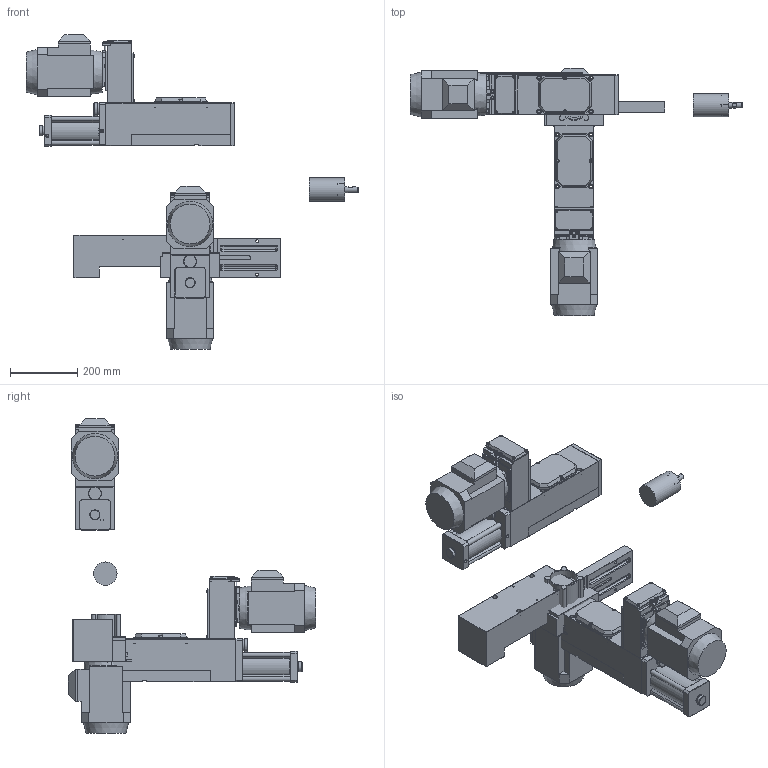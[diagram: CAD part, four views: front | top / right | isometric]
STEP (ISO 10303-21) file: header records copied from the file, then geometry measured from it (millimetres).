
FILE_DESCRIPTION( ( 'STEP AP203' ), '1' );
FILE_NAME( 'C:/Documents and Settings/Saverio/Desktop/disegni ironcad/unità serie 1/F 114/F 114_B18_P.stp', '2013-12-10T14:43:40', ( ' ' ), ( ' ' ), 'XStep 1.0', ' ', ' ' );
FILE_SCHEMA( ( 'CONFIG_CONTROL_DESIGN' ) );
Length unit declared in the file: metre
Products named in the file (40): Assem1; Assem2; Assem3; 1; 2; 3; 4; 5; 6; 7; 8; 9; 10; 11; 12; 13; 14; 15; 16; 17; 18; 19; 20; 21; 22; 23; 24; 25; 26; 27; 28; 29; 30; 31; 32; 33; 34; 35; 36; 37
Bounding box: 990.39 x 737.2 x 939.13 mm (x, y, z)
Volume: 31305885.8 mm3; surface area: 3027381.7 mm2
Topology: 111 solids, 114 shells, 2517 faces, 5592 edges, 3411 vertices
Faces by surface type: plane 1635, cylinder 435, cone 351, sphere 60, bspline 24, torus 12
Full cylindrical faces by diameter (mm): 4.5 x12, 5 x27, 5.5 x15, 6 x30, 6.5 x6, 6.9 x12, 8.385 x3, 8.5 x24, 9.87 x12, 10.25 x6, 13.5 x12, 18 x9, 20 x3, 27.5 x3, 30 x9, 36 x3, 39 x3, 47 x3, 52 x6, 52.5 x3, 54 x6, 54.4 x3, 70 x3, 71 x3, 80 x15
Entity records: 24477 total; most frequent: CARTESIAN_POINT 4860, DIRECTION 3753, ORIENTED_EDGE 3312, EDGE_CURVE 1656, AXIS2_PLACEMENT_3D 1335, VERTEX_POINT 1116, EDGE_LOOP 1112, LINE 1083
